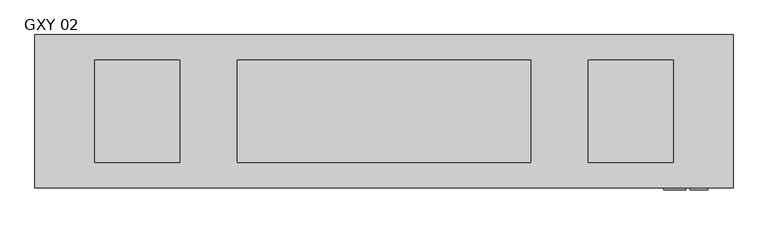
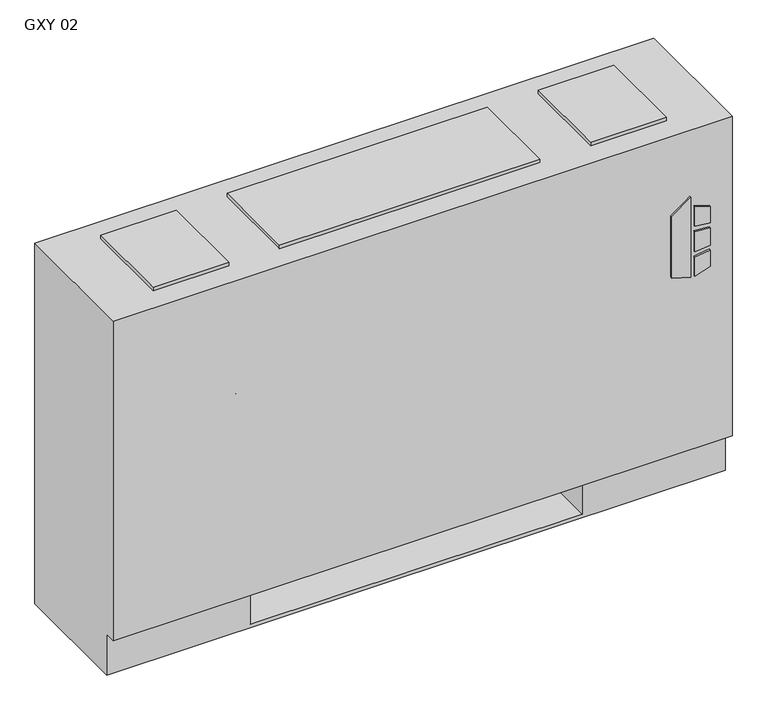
"""IFC4 building model written with IfcOpenShell, lengths in millimetres: proxy geometry, Vertical_Fan_Coil_Unit_-_GXY_-_IEC_-_2-Pipe_TS-FR_LH_2022 : GXY 02."""

from ifc_helpers import new_model, si_unit, point, frame, frame_2d, origin, place, context, project, spatial, polyline, circle_curve, trimmed, segment, composite_curve, outline, extrude, source, transform, mapped, element, save
from ifc_brep_helpers import plane_surface, revolved_surface, advanced_brep


def gxy_02_d8011f0c(model_context):
    return source(origin(), model_context, "Body", "SolidModel", [
        extrude(outline(polyline([(391.6086829, 569.9868862), (381.6606126, 602.1602728), (523.831537, 602.1602728), (500.8095309, 569.9868862), (391.6086829, 569.9868862)])), frame((0.0, 12.7, 0.0), z_axis=(0.0, 1.0, 0.0), x_axis=(0.0, 0.0, 1.0)), (0.0, 0.0, 1.0), 3.175),
        extrude(outline(polyline([(470.6079683, 608.9186058), (467.4055757, 635.0), (496.6344168, 635.0), (504.6988318, 608.9186058), (470.6079683, 608.9186058)])), frame((0.0, 12.7, 0.0), z_axis=(0.0, 1.0, 0.0), x_axis=(0.0, 0.0, 1.0)), (0.0, 0.0, 1.0), 3.175),
        extrude(outline(polyline([(418.7444414, 635.0), (415.0789404, 608.9186058), (381.6606126, 608.9186058), (390.2948498, 635.0), (418.7444414, 635.0)])), frame((0.0, 12.7, 0.0), z_axis=(0.0, 1.0, 0.0), x_axis=(0.0, 0.0, 1.0)), (0.0, 0.0, 1.0), 3.175),
        extrude(outline(polyline([(458.0596028, 635.0), (460.3414292, 608.9186058), (424.4038806, 608.9186058), (427.1451456, 635.0), (458.0596028, 635.0)])), frame((0.0, 12.7, 0.0), z_axis=(0.0, 1.0, 0.0), x_axis=(0.0, 0.0, 1.0)), (0.0, 0.0, 1.0), 3.175),
        extrude(outline(polyline([(431.8, 81.534), (431.8, 223.266), (552.45, 223.266), (552.45, 81.534), (431.8, 81.534)])), frame((0.0, 0.0, 327.025), z_axis=(0.0, 0.0, 1.0), x_axis=(1.0, 0.0, 0.0)), (0.0, 0.0, 1.0), 260.35),
        extrude(outline(polyline([(-152.4, 206.375), (-152.4, 53.975), (-279.4, 53.975), (-279.4, 206.375), (-152.4, 206.375)])), frame((0.0, 0.0, 641.35), z_axis=(0.0, 0.0, 1.0), x_axis=(1.0, 0.0, 0.0)), (0.0, 0.0, 1.0), 6.35),
        extrude(outline(polyline([(584.2, 206.375), (584.2, 53.975), (457.2, 53.975), (457.2, 206.375), (584.2, 206.375)])), frame((0.0, 0.0, 641.35), z_axis=(0.0, 0.0, 1.0), x_axis=(1.0, 0.0, 0.0)), (0.0, 0.0, 1.0), 6.35),
        extrude(outline(composite_curve([segment(trimmed(circle_curve(frame_2d((78.9432, 398.5514)), 7.9375), [point((78.9432, 406.4889))], [point((78.9432, 390.6139))], False, "CARTESIAN"), True, "CONTINUOUS"), segment(trimmed(circle_curve(frame_2d((78.9432, 398.5514)), 7.9375), [point((78.9432, 390.6139))], [point((78.9432, 406.4889))], False, "CARTESIAN"), True, "CONTINUOUS")], self_intersect=False)), frame((-177.8, 0.0, 0.0), z_axis=(1.0, 0.0, 0.0), x_axis=(0.0, 1.0, 0.0)), (0.0, 0.0, 1.0), 50.8),
        extrude(outline(composite_curve([segment(trimmed(circle_curve(frame_2d((155.9052, 537.3878)), 7.9375), [point((155.9052, 545.3253))], [point((155.9052, 529.4503))], False, "CARTESIAN"), True, "CONTINUOUS"), segment(trimmed(circle_curve(frame_2d((155.9052, 537.3878)), 7.9375), [point((155.9052, 529.4503))], [point((155.9052, 545.3253))], False, "CARTESIAN"), True, "CONTINUOUS")], self_intersect=False)), frame((-177.8, 0.0, 0.0), z_axis=(1.0, 0.0, 0.0), x_axis=(0.0, 1.0, 0.0)), (0.0, 0.0, 1.0), 50.8),
        advanced_brep(
        [(673.1, 244.475, 641.35), (-368.3, 244.475, 641.35), (-368.3, 15.875, 641.35), (673.1, 15.875, 641.35), (-368.3, 244.475, 0.0), (673.1, 244.475, 0.0), (673.1, 34.925, 0.0), (-368.3, 34.925, 0.0), (431.8, 244.475, 73.025), (660.4, 244.475, 73.025), (660.4, 244.475, 628.65), (431.8, 244.475, 628.65), (431.8, 244.475, 418.0400565), (460.375, 244.475, 418.0400565), (460.375, 244.475, 388.4099435), (431.8, 244.475, 388.4099435), (431.8, 244.475, 290.5125), (460.375, 244.475, 290.5125), (460.375, 244.475, 261.9375), (431.8, 244.475, 261.9375), (431.8, 244.475, 119.0625), (460.375, 244.475, 119.0625), (460.375, 244.475, 90.4875), (431.8, 244.475, 90.4875), (-127.0, 244.475, 628.65), (-355.6, 244.475, 628.65), (-355.6, 244.475, 73.025), (-127.0, 244.475, 73.025), (-127.0, 244.475, 90.4875), (-155.575, 244.475, 90.4875), (-155.575, 244.475, 119.0625), (-127.0, 244.475, 119.0625), (-127.0, 244.475, 261.9375), (-155.575, 244.475, 261.9375), (-155.575, 244.475, 290.5125), (-127.0, 244.475, 290.5125), (-127.0, 244.475, 388.4099435), (-155.575, 244.475, 388.4099435), (-155.575, 244.475, 418.0400565), (-127.0, 244.475, 418.0400565), (450.0626, 244.475, 104.775), (438.9374, 244.475, 104.775), (450.0626, 244.475, 403.225), (438.9374, 244.475, 403.225), (450.0626, 244.475, 276.225), (438.9374, 244.475, 276.225), (-134.1374, 244.475, 104.775), (-145.2626, 244.475, 104.775), (-134.1374, 244.475, 276.225), (-145.2626, 244.475, 276.225), (-134.1374, 244.475, 403.225), (-145.2626, 244.475, 403.225), (-368.3, 34.925, 73.025), (-368.3, 15.875, 73.025), (673.1, 15.875, 73.025), (673.1, 34.925, 73.025), (-127.0, 34.925, 73.025), (-127.0, 219.075, 73.025), (431.8, 219.075, 73.025), (431.8, 34.925, 73.025), (431.8, 34.925, 6.35), (-127.0, 34.925, 6.35), (431.8, 41.275, 628.65), (660.4, 41.275, 628.65), (660.4, 41.275, 73.025), (431.8, 41.275, 73.025), (-127.0, 41.275, 628.65), (-127.0, 41.275, 73.025), (-355.6, 41.275, 73.025), (-355.6, 41.275, 628.65), (431.8, 219.075, 73.025), (431.8, 238.125, 90.4875), (431.8, 238.125, 119.0625), (431.8, 238.125, 261.9375), (431.8, 238.125, 290.5125), (431.8, 238.125, 388.4099435), (431.8, 238.125, 418.0400565), (-127.0, 219.075, 73.025), (-127.0, 238.125, 418.0400565), (-127.0, 238.125, 388.4099435), (-127.0, 238.125, 290.5125), (-127.0, 238.125, 261.9375), (-127.0, 238.125, 119.0625), (-127.0, 238.125, 90.4875), (-127.0, 219.075, 6.35), (431.8, 219.075, 6.35), (460.375, 238.125, 90.4875), (460.375, 238.125, 119.0625), (438.9374, 238.125, 104.775), (450.0626, 238.125, 104.775), (460.375, 238.125, 261.9375), (460.375, 238.125, 290.5125), (438.9374, 238.125, 276.225), (450.0626, 238.125, 276.225), (460.375, 238.125, 388.4099435), (460.375, 238.125, 418.0400565), (438.9374, 238.125, 403.225), (450.0626, 238.125, 403.225), (-155.575, 238.125, 119.0625), (-155.575, 238.125, 90.4875), (-145.2626, 238.125, 104.775), (-134.1374, 238.125, 104.775), (-155.575, 238.125, 290.5125), (-155.575, 238.125, 261.9375), (-145.2626, 238.125, 276.225), (-134.1374, 238.125, 276.225), (-155.575, 238.125, 418.0400565), (-155.575, 238.125, 388.4099435), (-145.2626, 238.125, 403.225), (-134.1374, 238.125, 403.225)],
        [
            (0, 1),
            (1, 2),
            (2, 3),
            (3, 0),
            (4, 5),
            (5, 6),
            (6, 7),
            (7, 4),
            (0, 5),
            (4, 1),
            (8, 9),
            (9, 10),
            (10, 11),
            (11, 12),
            (12, 13),
            (13, 14),
            (14, 15),
            (15, 16),
            (16, 17),
            (17, 18),
            (18, 19),
            (19, 20),
            (20, 21),
            (21, 22),
            (22, 23),
            (23, 8),
            (24, 25),
            (25, 26),
            (26, 27),
            (27, 28),
            (28, 29),
            (29, 30),
            (30, 31),
            (31, 32),
            (32, 33),
            (33, 34),
            (34, 35),
            (35, 36),
            (36, 37),
            (37, 38),
            (38, 39),
            (39, 24),
            (40, 41, circle_curve(frame((444.5, 244.475, 104.775), z_axis=(0.0, -1.0, 0.0), x_axis=(-1.0, 0.0, 0.0)), 5.5626)),
            (41, 40, circle_curve(frame((444.5, 244.475, 104.775), z_axis=(0.0, -1.0, 0.0), x_axis=(-1.0, 0.0, 0.0)), 5.5626)),
            (42, 43, circle_curve(frame((444.5, 244.475, 403.225), z_axis=(0.0, -1.0, 0.0), x_axis=(-1.0, 0.0, 0.0)), 5.5626)),
            (43, 42, circle_curve(frame((444.5, 244.475, 403.225), z_axis=(0.0, -1.0, 0.0), x_axis=(-1.0, 0.0, 0.0)), 5.5626)),
            (44, 45, circle_curve(frame((444.5, 244.475, 276.225), z_axis=(0.0, -1.0, 0.0), x_axis=(-1.0, 0.0, 0.0)), 5.5626)),
            (45, 44, circle_curve(frame((444.5, 244.475, 276.225), z_axis=(0.0, -1.0, 0.0), x_axis=(-1.0, 0.0, 0.0)), 5.5626)),
            (46, 47, circle_curve(frame((-139.7, 244.475, 104.775), z_axis=(0.0, -1.0, 0.0), x_axis=(-1.0, 0.0, 0.0)), 5.5626)),
            (47, 46, circle_curve(frame((-139.7, 244.475, 104.775), z_axis=(0.0, -1.0, 0.0), x_axis=(-1.0, 0.0, 0.0)), 5.5626)),
            (48, 49, circle_curve(frame((-139.7, 244.475, 276.225), z_axis=(0.0, -1.0, 0.0), x_axis=(-1.0, 0.0, 0.0)), 5.5626)),
            (49, 48, circle_curve(frame((-139.7, 244.475, 276.225), z_axis=(0.0, -1.0, 0.0), x_axis=(-1.0, 0.0, 0.0)), 5.5626)),
            (50, 51, circle_curve(frame((-139.7, 244.475, 403.225), z_axis=(0.0, -1.0, 0.0), x_axis=(-1.0, 0.0, 0.0)), 5.5626)),
            (51, 50, circle_curve(frame((-139.7, 244.475, 403.225), z_axis=(0.0, -1.0, 0.0), x_axis=(-1.0, 0.0, 0.0)), 5.5626)),
            (7, 52),
            (52, 53),
            (53, 2),
            (53, 54),
            (54, 3),
            (54, 55),
            (55, 6),
            (52, 56),
            (56, 57),
            (57, 58),
            (58, 59),
            (59, 55),
            (59, 60),
            (60, 61),
            (61, 56),
            (62, 63),
            (63, 64),
            (64, 65),
            (65, 62),
            (66, 67),
            (67, 68),
            (68, 69),
            (69, 66),
            (65, 70),
            (70, 8),
            (23, 71),
            (71, 72),
            (72, 20),
            (19, 73),
            (73, 74),
            (74, 16),
            (15, 75),
            (75, 76),
            (76, 12),
            (11, 62),
            (64, 9),
            (63, 10),
            (69, 25),
            (24, 66),
            (68, 26),
            (67, 77),
            (77, 27),
            (39, 78),
            (78, 79),
            (79, 36),
            (35, 80),
            (80, 81),
            (81, 32),
            (31, 82),
            (82, 83),
            (83, 28),
            (57, 84),
            (84, 85),
            (85, 58),
            (85, 60),
            (84, 61),
            (71, 86),
            (86, 87),
            (87, 72),
            (88, 89, circle_curve(frame((444.5, 238.125, 104.775), z_axis=(0.0, 1.0, 0.0), x_axis=(-1.0, 0.0, 0.0)), 5.5626)),
            (89, 88, circle_curve(frame((444.5, 238.125, 104.775), z_axis=(0.0, 1.0, 0.0), x_axis=(-1.0, 0.0, 0.0)), 5.5626)),
            (73, 90),
            (90, 91),
            (91, 74),
            (92, 93, circle_curve(frame((444.5, 238.125, 276.225), z_axis=(0.0, 1.0, 0.0), x_axis=(-1.0, 0.0, 0.0)), 5.5626)),
            (93, 92, circle_curve(frame((444.5, 238.125, 276.225), z_axis=(0.0, 1.0, 0.0), x_axis=(-1.0, 0.0, 0.0)), 5.5626)),
            (75, 94),
            (94, 95),
            (95, 76),
            (96, 97, circle_curve(frame((444.5, 238.125, 403.225), z_axis=(0.0, 1.0, 0.0), x_axis=(-1.0, 0.0, 0.0)), 5.5626)),
            (97, 96, circle_curve(frame((444.5, 238.125, 403.225), z_axis=(0.0, 1.0, 0.0), x_axis=(-1.0, 0.0, 0.0)), 5.5626)),
            (98, 99),
            (99, 83),
            (82, 98),
            (100, 101, circle_curve(frame((-139.7, 238.125, 104.775), z_axis=(0.0, 1.0, 0.0), x_axis=(-1.0, 0.0, 0.0)), 5.5626)),
            (101, 100, circle_curve(frame((-139.7, 238.125, 104.775), z_axis=(0.0, 1.0, 0.0), x_axis=(-1.0, 0.0, 0.0)), 5.5626)),
            (102, 103),
            (103, 81),
            (80, 102),
            (104, 105, circle_curve(frame((-139.7, 238.125, 276.225), z_axis=(0.0, 1.0, 0.0), x_axis=(-1.0, 0.0, 0.0)), 5.5626)),
            (105, 104, circle_curve(frame((-139.7, 238.125, 276.225), z_axis=(0.0, 1.0, 0.0), x_axis=(-1.0, 0.0, 0.0)), 5.5626)),
            (106, 107),
            (107, 79),
            (78, 106),
            (108, 109, circle_curve(frame((-139.7, 238.125, 403.225), z_axis=(0.0, 1.0, 0.0), x_axis=(-1.0, 0.0, 0.0)), 5.5626)),
            (109, 108, circle_curve(frame((-139.7, 238.125, 403.225), z_axis=(0.0, 1.0, 0.0), x_axis=(-1.0, 0.0, 0.0)), 5.5626)),
            (87, 21),
            (86, 22),
            (91, 17),
            (90, 18),
            (95, 13),
            (94, 14),
            (30, 98),
            (99, 29),
            (34, 102),
            (103, 33),
            (38, 106),
            (107, 37),
            (88, 41),
            (40, 89),
            (96, 43),
            (42, 97),
            (92, 45),
            (44, 93),
            (100, 47),
            (46, 101),
            (104, 49),
            (48, 105),
            (108, 51),
            (50, 109),
        ],
        [
            plane_surface(frame((-368.3, 244.475, 641.35), z_axis=(0.0, 0.0, 1.0), x_axis=(-1.0, 0.0, 0.0))),
            plane_surface(frame((-368.3, 244.475, 0.0), z_axis=(0.0, 0.0, -1.0), x_axis=(1.0, 0.0, 0.0))),
            plane_surface(frame((673.1, 244.475, 641.35), z_axis=(0.0, 1.0, 0.0), x_axis=(0.0, 0.0, -1.0))),
            plane_surface(frame((-368.3, 244.475, 641.35), z_axis=(-1.0, 0.0, 0.0), x_axis=(0.0, 0.0, -1.0))),
            plane_surface(frame((-368.3, 15.875, 641.35), z_axis=(0.0, -1.0, 0.0), x_axis=(0.0, 0.0, -1.0))),
            plane_surface(frame((673.1, 15.875, 641.35), z_axis=(1.0, 0.0, 0.0), x_axis=(0.0, 0.0, -1.0))),
            plane_surface(frame((-368.3, 15.875, 73.025), z_axis=(0.0, 0.0, -1.0), x_axis=(1.0, 0.0, 0.0))),
            plane_surface(frame((-368.3, 34.925, 73.025), z_axis=(0.0, -1.0, 0.0), x_axis=(1.0, 0.0, 0.0))),
            plane_surface(frame((431.8, 41.275, 628.65), z_axis=(0.0, 1.0, 0.0), x_axis=(0.0, 0.0, -1.0))),
            plane_surface(frame((431.8, 41.275, 628.65), z_axis=(1.0, 0.0, 0.0), x_axis=(0.0, 1.0, 0.0))),
            plane_surface(frame((431.8, 41.275, 73.025), z_axis=(0.0, 0.0, 1.0), x_axis=(0.0, 1.0, 0.0))),
            plane_surface(frame((660.4, 41.275, 73.025), z_axis=(-1.0, 0.0, 0.0), x_axis=(0.0, 1.0, 0.0))),
            plane_surface(frame((660.4, 41.275, 628.65), z_axis=(0.0, 0.0, -1.0), x_axis=(0.0, 1.0, 0.0))),
            plane_surface(frame((-127.0, 41.275, 628.65), z_axis=(0.0, 0.0, -1.0), x_axis=(0.0, 1.0, 0.0))),
            plane_surface(frame((-355.6, 41.275, 628.65), z_axis=(1.0, 0.0, 0.0), x_axis=(0.0, 1.0, 0.0))),
            plane_surface(frame((-355.6, 41.275, 73.025), z_axis=(0.0, 0.0, 1.0), x_axis=(0.0, 1.0, 0.0))),
            plane_surface(frame((-127.0, 41.275, 73.025), z_axis=(-1.0, 0.0, 0.0), x_axis=(0.0, 1.0, 0.0))),
            plane_surface(frame((431.8, 219.075, 73.025), z_axis=(0.0, -1.0, 0.0), x_axis=(0.0, 0.0, -1.0))),
            plane_surface(frame((431.8, 219.075, 73.025), z_axis=(-1.0, 0.0, 0.0), x_axis=(0.0, -1.0, 0.0))),
            plane_surface(frame((431.8, 219.075, 6.35), z_axis=(0.0, 0.0, 1.0), x_axis=(0.0, -1.0, 0.0))),
            plane_surface(frame((-127.0, 219.075, 6.35), z_axis=(1.0, 0.0, 0.0), x_axis=(0.0, -1.0, 0.0))),
            plane_surface(frame((460.375, 238.125, 119.0625), z_axis=(0.0, -1.0, 0.0), x_axis=(-1.0, 0.0, 0.0))),
            plane_surface(frame((431.8, 244.475, 119.0625), z_axis=(0.0, 0.0, 1.0), x_axis=(0.0, -1.0, 0.0))),
            plane_surface(frame((460.375, 244.475, 119.0625), z_axis=(1.0, 0.0, 0.0), x_axis=(0.0, -1.0, 0.0))),
            plane_surface(frame((460.375, 244.475, 90.4875), z_axis=(0.0, 0.0, -1.0), x_axis=(0.0, -1.0, 0.0))),
            plane_surface(frame((431.8, 244.475, 290.5125), z_axis=(0.0, 0.0, 1.0), x_axis=(0.0, -1.0, 0.0))),
            plane_surface(frame((460.375, 244.475, 290.5125), z_axis=(1.0, 0.0, 0.0), x_axis=(0.0, -1.0, 0.0))),
            plane_surface(frame((460.375, 244.475, 261.9375), z_axis=(0.0, 0.0, -1.0), x_axis=(0.0, -1.0, 0.0))),
            plane_surface(frame((431.8, 244.475, 418.0400565), z_axis=(0.0, 0.0, 1.0), x_axis=(0.0, -1.0, 0.0))),
            plane_surface(frame((460.375, 244.475, 418.0400565), z_axis=(1.0, 0.0, 0.0), x_axis=(0.0, -1.0, 0.0))),
            plane_surface(frame((460.375, 244.475, 388.4099435), z_axis=(0.0, 0.0, -1.0), x_axis=(0.0, -1.0, 0.0))),
            plane_surface(frame((-155.575, 244.475, 119.0625), z_axis=(0.0, 0.0, 1.0), x_axis=(0.0, -1.0, 0.0))),
            plane_surface(frame((-127.0, 244.475, 90.4875), z_axis=(0.0, 0.0, -1.0), x_axis=(0.0, -1.0, 0.0))),
            plane_surface(frame((-155.575, 244.475, 90.4875), z_axis=(-1.0, 0.0, 0.0), x_axis=(0.0, -1.0, 0.0))),
            plane_surface(frame((-155.575, 244.475, 290.5125), z_axis=(0.0, 0.0, 1.0), x_axis=(0.0, -1.0, 0.0))),
            plane_surface(frame((-127.0, 244.475, 261.9375), z_axis=(0.0, 0.0, -1.0), x_axis=(0.0, -1.0, 0.0))),
            plane_surface(frame((-155.575, 244.475, 261.9375), z_axis=(-1.0, 0.0, 0.0), x_axis=(0.0, -1.0, 0.0))),
            plane_surface(frame((-155.575, 244.475, 418.0400565), z_axis=(0.0, 0.0, 1.0), x_axis=(0.0, -1.0, 0.0))),
            plane_surface(frame((-127.0, 244.475, 388.4099435), z_axis=(0.0, 0.0, -1.0), x_axis=(0.0, -1.0, 0.0))),
            plane_surface(frame((-155.575, 244.475, 388.4099435), z_axis=(-1.0, 0.0, 0.0), x_axis=(0.0, -1.0, 0.0))),
            revolved_surface(polyline([(438.9374, 238.125, 104.775), (438.9374, 244.475, 104.775)]), (444.5, 244.475, 104.775), (0.0, -1.0, 0.0)),
            revolved_surface(polyline([(438.9374, 238.125, 403.225), (438.9374, 244.475, 403.225)]), (444.5, 244.475, 403.225), (0.0, -1.0, 0.0)),
            revolved_surface(polyline([(438.9374, 238.125, 276.225), (438.9374, 244.475, 276.225)]), (444.5, 244.475, 276.225), (0.0, -1.0, 0.0)),
            revolved_surface(polyline([(-145.2626, 238.125, 104.775), (-145.2626, 244.475, 104.775)]), (-139.7, 244.475, 104.775), (0.0, -1.0, 0.0)),
            revolved_surface(polyline([(-145.2626, 238.125, 276.225), (-145.2626, 244.475, 276.225)]), (-139.7, 244.475, 276.225), (0.0, -1.0, 0.0)),
            revolved_surface(polyline([(-145.2626, 238.125, 403.225), (-145.2626, 244.475, 403.225)]), (-139.7, 244.475, 403.225), (0.0, -1.0, 0.0)),
        ],
        [
            (0, [[1, 2, 3, 4]]),
            (1, [[5, 6, 7, 8]]),
            (2, [[-1, 9, -5, 10], [11, 12, 13, 14, 15, 16, 17, 18, 19, 20, 21, 22, 23, 24, 25, 26], [27, 28, 29, 30, 31, 32, 33, 34, 35, 36, 37, 38, 39, 40, 41, 42], [43, 44], [45, 46], [47, 48], [49, 50], [51, 52], [53, 54]]),
            (3, [[-2, -10, -8, 55, 56, 57]]),
            (4, [[-3, -57, 58, 59]]),
            (5, [[-4, -59, 60, 61, -6, -9]]),
            (6, [[-56, 62, 63, 64, 65, 66, -60, -58]]),
            (7, [[-7, -61, -66, 67, 68, 69, -62, -55]]),
            (8, [[70, 71, 72, 73]]),
            (8, [[74, 75, 76, 77]]),
            (9, [[-73, 78, 79, -26, 80, 81, 82, -22, 83, 84, 85, -18, 86, 87, 88, -14, 89]]),
            (10, [[-72, 90, -11, -79, -78]]),
            (11, [[-71, 91, -12, -90]]),
            (12, [[-70, -89, -13, -91]]),
            (13, [[-77, 92, -27, 93]]),
            (14, [[-76, 94, -28, -92]]),
            (15, [[-75, 95, 96, -29, -94]]),
            (16, [[-74, -93, -42, 97, 98, 99, -38, 100, 101, 102, -34, 103, 104, 105, -30, -96, -95]]),
            (17, [[-64, 106, 107, 108]]),
            (18, [[-108, 109, -67, -65]]),
            (19, [[-107, 110, -68, -109]]),
            (20, [[-106, -63, -69, -110]]),
            (21, [[111, 112, 113, -81], [114, 115]]),
            (21, [[116, 117, 118, -84], [119, 120]]),
            (21, [[121, 122, 123, -87], [124, 125]]),
            (21, [[126, 127, -104, 128], [129, 130]]),
            (21, [[131, 132, -101, 133], [134, 135]]),
            (21, [[136, 137, -98, 138], [139, 140]]),
            (22, [[-113, 141, -23, -82]]),
            (23, [[-112, 142, -24, -141]]),
            (24, [[-111, -80, -25, -142]]),
            (25, [[-118, 143, -19, -85]]),
            (26, [[-117, 144, -20, -143]]),
            (27, [[-116, -83, -21, -144]]),
            (28, [[-123, 145, -15, -88]]),
            (29, [[-122, 146, -16, -145]]),
            (30, [[-121, -86, -17, -146]]),
            (31, [[-128, -103, -33, 147]]),
            (32, [[-127, 148, -31, -105]]),
            (33, [[-126, -147, -32, -148]]),
            (34, [[-133, -100, -37, 149]]),
            (35, [[-132, 150, -35, -102]]),
            (36, [[-131, -149, -36, -150]]),
            (37, [[-138, -97, -41, 151]]),
            (38, [[-137, 152, -39, -99]]),
            (39, [[-136, -151, -40, -152]]),
            (40, [[153, -43, 154, -114]]),
            (40, [[-153, -115, -154, -44]]),
            (41, [[155, -45, 156, -124]]),
            (41, [[-155, -125, -156, -46]]),
            (42, [[157, -47, 158, -119]]),
            (42, [[-157, -120, -158, -48]]),
            (43, [[159, -49, 160, -129]]),
            (43, [[-159, -130, -160, -50]]),
            (44, [[161, -51, 162, -134]]),
            (44, [[-161, -135, -162, -52]]),
            (45, [[163, -53, 164, -139]]),
            (45, [[-163, -140, -164, -54]]),
        ],
    ),
        extrude(outline(polyline([(371.475, 206.375), (371.475, 53.975), (-66.675, 53.975), (-66.675, 206.375), (371.475, 206.375)])), frame((0.0, 0.0, 641.35), z_axis=(0.0, 0.0, 1.0), x_axis=(1.0, 0.0, 0.0)), (0.0, 0.0, 1.0), 6.35),
    ])


if __name__ == "__main__":
    model = new_model("IFC4")
    model_context = context("Model", 3, world=origin())
    ifc_project = project(units=[si_unit("LENGTHUNIT", "METRE", prefix="MILLI")], contexts=[model_context])
    site = spatial("IfcSite", under=ifc_project)
    building = spatial("IfcBuilding", under=site)
    placement = place(None, origin())
    gxy_02_shape = gxy_02_d8011f0c(model_context)
    element("IfcBuildingElementProxy", 1, Name="Vertical_Fan_Coil_Unit_-_GXY_-_IEC_-_2-Pipe_TS-FR_LH_2022 : GXY 02", ObjectType="Vertical_Fan_Coil_Unit_-_GXY_-_IEC_-_2-Pipe_TS-FR_LH_2022 : GXY 02", at=placement, inside=building, context=model_context, shape_type="MappedRepresentation", body=[
        mapped(gxy_02_shape, transform((0.0, 0.0, 0.0), x_axis=(1.0, 0.0, 0.0), y_axis=(0.0, 1.0, 0.0), z_axis=(0.0, 0.0, 1.0))),
    ])
    save(model, "model.ifc")
